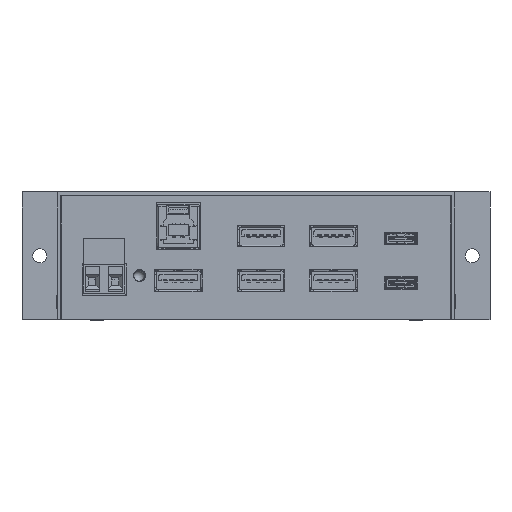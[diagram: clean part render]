
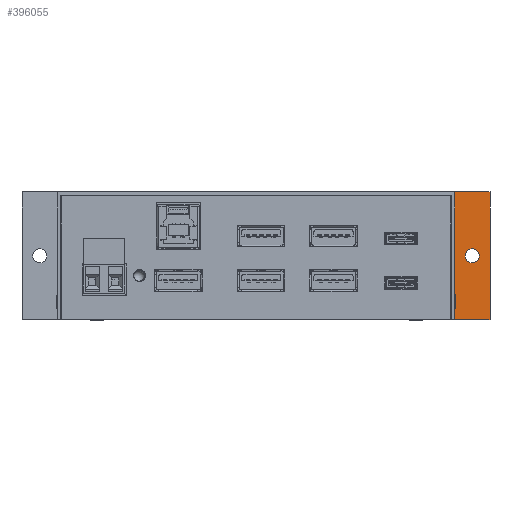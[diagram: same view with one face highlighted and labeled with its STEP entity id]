
A CAD part, front view. The second image highlights one B-rep face of the part: STEP entity #396055.
In plain terms, the highlighted planar face has unit normal (0, -1, 0).
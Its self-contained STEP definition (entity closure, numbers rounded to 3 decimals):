
#391042 = PLANE('',#391043);
#391043 = AXIS2_PLACEMENT_3D('',#391044,#391045,#391046);
#391044 = CARTESIAN_POINT('',(-10.,0.,1.));
#391045 = DIRECTION('',(0.,0.,1.));
#391046 = DIRECTION('',(1.,0.,0.));
#391956 = PLANE('',#391957);
#391957 = AXIS2_PLACEMENT_3D('',#391958,#391959,#391960);
#391958 = CARTESIAN_POINT('',(-10.,0.,37.2));
#391959 = DIRECTION('',(0.,0.,1.));
#391960 = DIRECTION('',(1.,0.,0.));
#391984 = PLANE('',#391985);
#391985 = AXIS2_PLACEMENT_3D('',#391986,#391987,#391988);
#391986 = CARTESIAN_POINT('',(112.525,0.,1.));
#391987 = DIRECTION('',(1.,0.,0.));
#391988 = DIRECTION('',(0.,0.,1.));
#392121 = EDGE_CURVE('',#392122,#392124,#392126,.T.);
#392122 = VERTEX_POINT('',#392123);
#392123 = CARTESIAN_POINT('',(112.525,64.1,1.));
#392124 = VERTEX_POINT('',#392125);
#392125 = CARTESIAN_POINT('',(122.5,64.1,1.));
#392126 = SURFACE_CURVE('',#392127,(#392131,#392138),.PCURVE_S1.);
#392127 = LINE('',#392128,#392129);
#392128 = CARTESIAN_POINT('',(112.525,64.1,1.));
#392129 = VECTOR('',#392130,1.);
#392130 = DIRECTION('',(1.,0.,0.));
#392131 = PCURVE('',#391042,#392132);
#392132 = DEFINITIONAL_REPRESENTATION('',(#392133),#392137);
#392133 = LINE('',#392134,#392135);
#392134 = CARTESIAN_POINT('',(122.525,64.1));
#392135 = VECTOR('',#392136,1.);
#392136 = DIRECTION('',(1.,0.));
#392137 = ( GEOMETRIC_REPRESENTATION_CONTEXT(2) 
PARAMETRIC_REPRESENTATION_CONTEXT() REPRESENTATION_CONTEXT('2D SPACE',''
  ) );
#392138 = PCURVE('',#392139,#392144);
#392139 = PLANE('',#392140);
#392140 = AXIS2_PLACEMENT_3D('',#392141,#392142,#392143);
#392141 = CARTESIAN_POINT('',(112.525,64.1,1.));
#392142 = DIRECTION('',(0.,1.,0.));
#392143 = DIRECTION('',(0.,0.,1.));
#392144 = DEFINITIONAL_REPRESENTATION('',(#392145),#392149);
#392145 = LINE('',#392146,#392147);
#392146 = CARTESIAN_POINT('',(0.,0.));
#392147 = VECTOR('',#392148,1.);
#392148 = DIRECTION('',(0.,1.));
#392149 = ( GEOMETRIC_REPRESENTATION_CONTEXT(2) 
PARAMETRIC_REPRESENTATION_CONTEXT() REPRESENTATION_CONTEXT('2D SPACE',''
  ) );
#392167 = PLANE('',#392168);
#392168 = AXIS2_PLACEMENT_3D('',#392169,#392170,#392171);
#392169 = CARTESIAN_POINT('',(122.5,0.,1.));
#392170 = DIRECTION('',(1.,0.,0.));
#392171 = DIRECTION('',(0.,0.,1.));
#394900 = EDGE_CURVE('',#392122,#394901,#394903,.T.);
#394901 = VERTEX_POINT('',#394902);
#394902 = CARTESIAN_POINT('',(112.525,64.1,37.2));
#394903 = SURFACE_CURVE('',#394904,(#394908,#394915),.PCURVE_S1.);
#394904 = LINE('',#394905,#394906);
#394905 = CARTESIAN_POINT('',(112.525,64.1,1.));
#394906 = VECTOR('',#394907,1.);
#394907 = DIRECTION('',(0.,0.,1.));
#394908 = PCURVE('',#391984,#394909);
#394909 = DEFINITIONAL_REPRESENTATION('',(#394910),#394914);
#394910 = LINE('',#394911,#394912);
#394911 = CARTESIAN_POINT('',(0.,-64.1));
#394912 = VECTOR('',#394913,1.);
#394913 = DIRECTION('',(1.,0.));
#394914 = ( GEOMETRIC_REPRESENTATION_CONTEXT(2) 
PARAMETRIC_REPRESENTATION_CONTEXT() REPRESENTATION_CONTEXT('2D SPACE',''
  ) );
#394915 = PCURVE('',#392139,#394916);
#394916 = DEFINITIONAL_REPRESENTATION('',(#394917),#394921);
#394917 = LINE('',#394918,#394919);
#394918 = CARTESIAN_POINT('',(0.,0.));
#394919 = VECTOR('',#394920,1.);
#394920 = DIRECTION('',(1.,0.));
#394921 = ( GEOMETRIC_REPRESENTATION_CONTEXT(2) 
PARAMETRIC_REPRESENTATION_CONTEXT() REPRESENTATION_CONTEXT('2D SPACE',''
  ) );
#395756 = EDGE_CURVE('',#395757,#394901,#395759,.T.);
#395757 = VERTEX_POINT('',#395758);
#395758 = CARTESIAN_POINT('',(122.5,64.1,37.2));
#395759 = SURFACE_CURVE('',#395760,(#395764,#395770),.PCURVE_S1.);
#395760 = LINE('',#395761,#395762);
#395761 = CARTESIAN_POINT('',(51.263,64.1,37.2));
#395762 = VECTOR('',#395763,1.);
#395763 = DIRECTION('',(-1.,0.,0.));
#395764 = PCURVE('',#391956,#395765);
#395765 = DEFINITIONAL_REPRESENTATION('',(#395766),#395769);
#395766 = B_SPLINE_CURVE_WITH_KNOTS('',1,(#395767,#395768),
  .UNSPECIFIED.,.F.,.F.,(2,2),(-72.235,-60.265),
  .PIECEWISE_BEZIER_KNOTS.);
#395767 = CARTESIAN_POINT('',(133.498,64.1));
#395768 = CARTESIAN_POINT('',(121.528,64.1));
#395769 = ( GEOMETRIC_REPRESENTATION_CONTEXT(2) 
PARAMETRIC_REPRESENTATION_CONTEXT() REPRESENTATION_CONTEXT('2D SPACE',''
  ) );
#395770 = PCURVE('',#392139,#395771);
#395771 = DEFINITIONAL_REPRESENTATION('',(#395772),#395775);
#395772 = B_SPLINE_CURVE_WITH_KNOTS('',1,(#395773,#395774),
  .UNSPECIFIED.,.F.,.F.,(2,2),(-72.235,-60.265),
  .PIECEWISE_BEZIER_KNOTS.);
#395773 = CARTESIAN_POINT('',(36.2,10.973));
#395774 = CARTESIAN_POINT('',(36.2,-0.998));
#395775 = ( GEOMETRIC_REPRESENTATION_CONTEXT(2) 
PARAMETRIC_REPRESENTATION_CONTEXT() REPRESENTATION_CONTEXT('2D SPACE',''
  ) );
#396055 = ADVANCED_FACE('',(#396056,#396082),#392139,.F.);
#396056 = FACE_BOUND('',#396057,.F.);
#396057 = EDGE_LOOP('',(#396058,#396079,#396080,#396081));
#396058 = ORIENTED_EDGE('',*,*,#396059,.F.);
#396059 = EDGE_CURVE('',#392124,#395757,#396060,.T.);
#396060 = SURFACE_CURVE('',#396061,(#396065,#396072),.PCURVE_S1.);
#396061 = LINE('',#396062,#396063);
#396062 = CARTESIAN_POINT('',(122.5,64.1,1.));
#396063 = VECTOR('',#396064,1.);
#396064 = DIRECTION('',(0.,0.,1.));
#396065 = PCURVE('',#392139,#396066);
#396066 = DEFINITIONAL_REPRESENTATION('',(#396067),#396071);
#396067 = LINE('',#396068,#396069);
#396068 = CARTESIAN_POINT('',(0.,9.975));
#396069 = VECTOR('',#396070,1.);
#396070 = DIRECTION('',(1.,0.));
#396071 = ( GEOMETRIC_REPRESENTATION_CONTEXT(2) 
PARAMETRIC_REPRESENTATION_CONTEXT() REPRESENTATION_CONTEXT('2D SPACE',''
  ) );
#396072 = PCURVE('',#392167,#396073);
#396073 = DEFINITIONAL_REPRESENTATION('',(#396074),#396078);
#396074 = LINE('',#396075,#396076);
#396075 = CARTESIAN_POINT('',(0.,-64.1));
#396076 = VECTOR('',#396077,1.);
#396077 = DIRECTION('',(1.,0.));
#396078 = ( GEOMETRIC_REPRESENTATION_CONTEXT(2) 
PARAMETRIC_REPRESENTATION_CONTEXT() REPRESENTATION_CONTEXT('2D SPACE',''
  ) );
#396079 = ORIENTED_EDGE('',*,*,#392121,.F.);
#396080 = ORIENTED_EDGE('',*,*,#394900,.T.);
#396081 = ORIENTED_EDGE('',*,*,#395756,.F.);
#396082 = FACE_BOUND('',#396083,.F.);
#396083 = EDGE_LOOP('',(#396084));
#396084 = ORIENTED_EDGE('',*,*,#396085,.T.);
#396085 = EDGE_CURVE('',#396086,#396086,#396088,.T.);
#396086 = VERTEX_POINT('',#396087);
#396087 = CARTESIAN_POINT('',(119.5,64.1,19.1));
#396088 = SURFACE_CURVE('',#396089,(#396094,#396105),.PCURVE_S1.);
#396089 = CIRCLE('',#396090,2.);
#396090 = AXIS2_PLACEMENT_3D('',#396091,#396092,#396093);
#396091 = CARTESIAN_POINT('',(117.5,64.1,19.1));
#396092 = DIRECTION('',(0.,-1.,0.));
#396093 = DIRECTION('',(1.,0.,0.));
#396094 = PCURVE('',#392139,#396095);
#396095 = DEFINITIONAL_REPRESENTATION('',(#396096),#396104);
#396096 = ( BOUNDED_CURVE() B_SPLINE_CURVE(2,(#396097,#396098,#396099,
    #396100,#396101,#396102,#396103),.UNSPECIFIED.,.T.,.F.) 
B_SPLINE_CURVE_WITH_KNOTS((1,2,2,2,2,1),(-2.094,0.,
    2.094,4.189,6.283,8.378),
.UNSPECIFIED.) CURVE() GEOMETRIC_REPRESENTATION_ITEM() 
RATIONAL_B_SPLINE_CURVE((1.,0.5,1.,0.5,1.,0.5,1.)) REPRESENTATION_ITEM(
  '') );
#396097 = CARTESIAN_POINT('',(18.1,6.975));
#396098 = CARTESIAN_POINT('',(21.564,6.975));
#396099 = CARTESIAN_POINT('',(19.832,3.975));
#396100 = CARTESIAN_POINT('',(18.1,0.975));
#396101 = CARTESIAN_POINT('',(16.368,3.975));
#396102 = CARTESIAN_POINT('',(14.636,6.975));
#396103 = CARTESIAN_POINT('',(18.1,6.975));
#396104 = ( GEOMETRIC_REPRESENTATION_CONTEXT(2) 
PARAMETRIC_REPRESENTATION_CONTEXT() REPRESENTATION_CONTEXT('2D SPACE',''
  ) );
#396105 = PCURVE('',#396106,#396111);
#396106 = CYLINDRICAL_SURFACE('',#396107,2.);
#396107 = AXIS2_PLACEMENT_3D('',#396108,#396109,#396110);
#396108 = CARTESIAN_POINT('',(117.5,70.,19.1));
#396109 = DIRECTION('',(0.,-1.,0.));
#396110 = DIRECTION('',(1.,0.,0.));
#396111 = DEFINITIONAL_REPRESENTATION('',(#396112),#396116);
#396112 = LINE('',#396113,#396114);
#396113 = CARTESIAN_POINT('',(0.,5.9));
#396114 = VECTOR('',#396115,1.);
#396115 = DIRECTION('',(1.,0.));
#396116 = ( GEOMETRIC_REPRESENTATION_CONTEXT(2) 
PARAMETRIC_REPRESENTATION_CONTEXT() REPRESENTATION_CONTEXT('2D SPACE',''
  ) );
